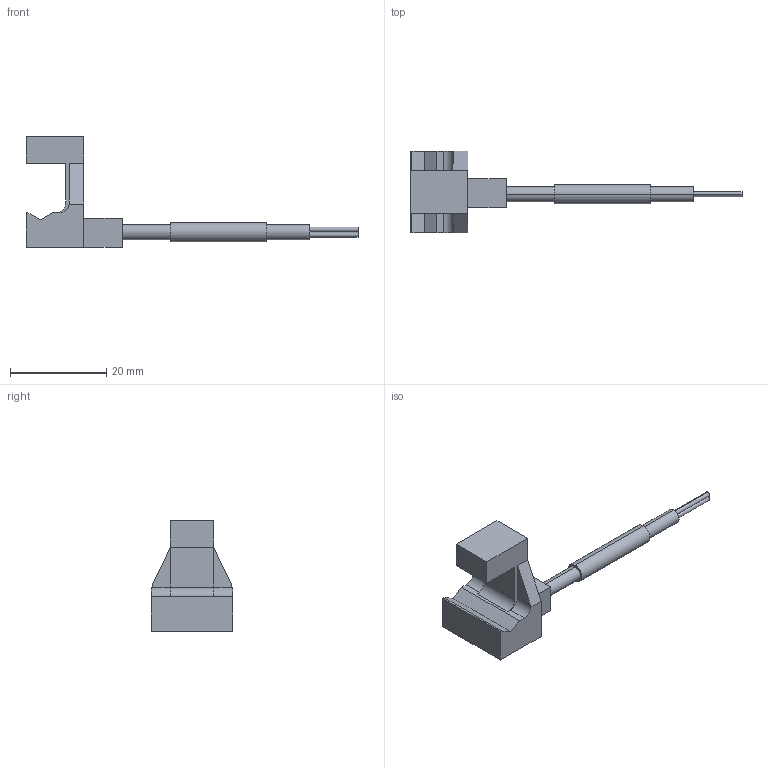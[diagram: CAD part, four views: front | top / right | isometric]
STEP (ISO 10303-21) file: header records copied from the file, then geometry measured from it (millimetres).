
FILE_DESCRIPTION (( 'STEP AP203' ), '1' );
FILE_NAME ('FT-F902.STEP', '2005-09-08T05:45:07', ( '' ), ( '' ), 'SwSTEP 2.0', 'SolidWorks 2004073', '' );
FILE_SCHEMA (( 'CONFIG_CONTROL_DESIGN' ));
Length unit declared in the file: millimetre
Products named in the file (1): FT-F902
Bounding box: 69 x 17 x 23 mm (x, y, z)
Volume: 3202.4 mm3; surface area: 2240.1 mm2
Topology: 1 solids, 1 shells, 41 faces, 102 edges, 68 vertices
Faces by surface type: plane 28, cylinder 13
Entity records: 1299 total; most frequent: CARTESIAN_POINT 218, DIRECTION 210, ORIENTED_EDGE 204, EDGE_CURVE 102, VECTOR 74, LINE 74, VERTEX_POINT 68, AXIS2_PLACEMENT_3D 68
